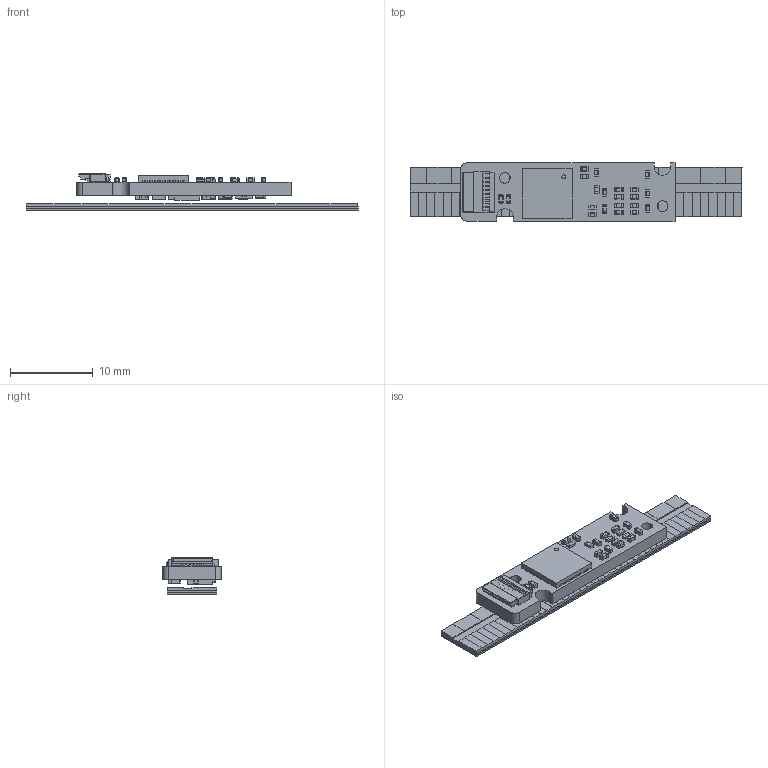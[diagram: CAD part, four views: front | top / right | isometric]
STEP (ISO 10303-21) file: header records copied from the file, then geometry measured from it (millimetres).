
FILE_DESCRIPTION((''),'2;1');
FILE_NAME('樓遵傷赽唳掛_ASM','2026-04-08T',('guxinfeng'),(''),'PRO/ENGINEER BY PARAMETRIC TECHNOLOGY CORPORATION, 2012480','PRO/ENGINEER BY PARAMETRIC TECHNOLOGY CORPORATION, 2012480','');
FILE_SCHEMA(('CONFIG_CONTROL_DESIGN'));
Products named in the file (135): PRT0019_1_1; PRT0020_1_1; PRT0022_1_1; PRT0023_1_1; ASM0025_ASM_1_ASM_1_ASM; 棠掑004X_A_2_A_1_ASM; PRT0002; ASM0002_ASM_1_ASM; PRT0003; PRT0004; TERMINAL-846_ASM_1_ASM; PRT0005; MID_BODY-1819_ASM_1_ASM; 6084318352_ASM_1_ASM; ASM0003_ASM_1_ASM; PRT0006; PRT0007; TERMINAL-2201_ASM_1_ASM; PRT0008; MID_BODY-3174_ASM_1_ASM; 6423078112_ASM_1_ASM; ASM0004_ASM_1_ASM; ASM0005_ASM_1_ASM; ASM0006_ASM_1_ASM; MID_BODY-3613_1; PRT0009; TERMINAL-3789_ASM_1_ASM; MARK-4111_1; 5367737200_ASM_1_ASM; ASM0007_ASM_1_ASM; ASM0008_ASM_1_ASM; C12_ASM_1_ASM; QFN-052_RGB8421504_1; ASM0009_ASM_1_ASM; PRT0010; PRT0011; TERMINAL-27315_ASM_1_ASM; PRT0012; MID_BODY-28288_ASM_1_ASM; 6915309520_ASM_1_ASM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
Assembly tree (165 placements, depth 9):
  樓遵傷赽唳掛_ASM
    ELS-004X_ASM_8_ASM_1_ASM
      棠掑004X_A_2_A_1_ASM
        ASM0025_ASM_1_ASM_1_ASM
          PRT0019_1_1
          PRT0020_1_1
          PRT0022_1_1
          PRT0023_1_1
      ELS-004Y_V1_3_ASM_1_ASM
        ASM0001_ASM_1_ASM
          ASM0002_ASM_1_ASM
            PRT0002
          ASM0003_ASM_1_ASM
            6084318352_ASM_1_ASM
              TERMINAL-846_ASM_1_ASM
                PRT0003
                PRT0004
              MID_BODY-1819_ASM_1_ASM
                PRT0005
          ASM0004_ASM_1_ASM
            6423078112_ASM_1_ASM
              TERMINAL-2201_ASM_1_ASM
                PRT0006
                PRT0007
              MID_BODY-3174_ASM_1_ASM
                PRT0008
          ASM0005_ASM_1_ASM
            6423078112_ASM_1_ASM
              TERMINAL-2201_ASM_1_ASM
                PRT0006
                PRT0007
              MID_BODY-3174_ASM_1_ASM
                PRT0008
          ASM0006_ASM_1_ASM
            6084318352_ASM_1_ASM
              TERMINAL-846_ASM_1_ASM
                PRT0003
                PRT0004
              MID_BODY-1819_ASM_1_ASM
                PRT0005
          ASM0007_ASM_1_ASM
            5367737200_ASM_1_ASM
              MID_BODY-3613_1
              TERMINAL-3789_ASM_1_ASM  x2
                PRT0009
              MARK-4111_1
          ASM0008_ASM_1_ASM
            5367737200_ASM_1_ASM
              MID_BODY-3613_1
              TERMINAL-3789_ASM_1_ASM  x2
                PRT0009
              MARK-4111_1
          C12_ASM_1_ASM
            6423078112_ASM_1_ASM
              TERMINAL-2201_ASM_1_ASM
                PRT0006
                PRT0007
              MID_BODY-3174_ASM_1_ASM
                PRT0008
          ASM0009_ASM_1_ASM
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Bounding box: 40 x 7 x 4.4 mm (x, y, z)
Volume: 516.2 mm3; surface area: 2861.2 mm2
Topology: 139 solids, 139 shells, 2640 faces, 6781 edges, 4235 vertices
Faces by surface type: plane 2043, cylinder 435, sphere 162
Entity records: 68914 total; most frequent: CARTESIAN_POINT 9696, DIRECTION 9070, ORIENTED_EDGE 9062, EDGE_CURVE 4531, PRESENTATION_STYLE_ASSIGNMENT 4316, STYLED_ITEM 4316, VECTOR 4230, LINE 4230
